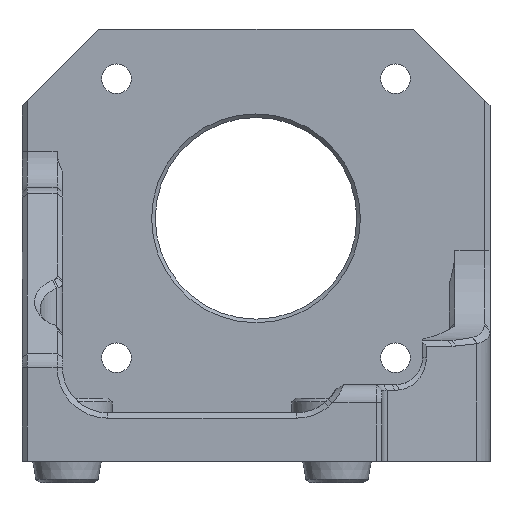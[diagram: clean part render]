
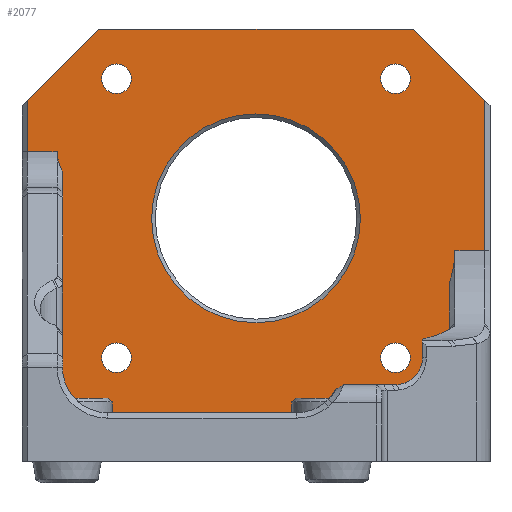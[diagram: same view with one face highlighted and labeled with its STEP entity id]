
A CAD part, front view. The second image highlights one B-rep face of the part: STEP entity #2077.
In plain terms, the highlighted planar face has unit normal (0, -1, 0).
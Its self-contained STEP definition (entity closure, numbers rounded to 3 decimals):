
#122=FACE_BOUND('',#346,.T.);
#123=FACE_BOUND('',#347,.T.);
#124=FACE_BOUND('',#348,.T.);
#125=FACE_BOUND('',#349,.T.);
#126=FACE_BOUND('',#350,.T.);
#140=(
BOUNDED_CURVE()
B_SPLINE_CURVE(2,(#2953,#2954,#2955),.UNSPECIFIED.,.F.,.F.)
B_SPLINE_CURVE_WITH_KNOTS((3,3),(0.237,0.473),
 .UNSPECIFIED.)
CURVE()
GEOMETRIC_REPRESENTATION_ITEM()
RATIONAL_B_SPLINE_CURVE((1.,1.037,1.))
REPRESENTATION_ITEM('')
);
#141=(
BOUNDED_CURVE()
B_SPLINE_CURVE(2,(#2967,#2968,#2969),.UNSPECIFIED.,.F.,.F.)
B_SPLINE_CURVE_WITH_KNOTS((3,3),(0.,0.358),.UNSPECIFIED.)
CURVE()
GEOMETRIC_REPRESENTATION_ITEM()
RATIONAL_B_SPLINE_CURVE((1.,1.015,1.))
REPRESENTATION_ITEM('')
);
#142=PLANE('',#2222);
#219=FACE_OUTER_BOUND('',#345,.T.);
#345=EDGE_LOOP('',(#1424,#1425,#1426,#1427,#1428,#1429,#1430,#1431,#1432,
#1433,#1434,#1435,#1436,#1437));
#346=EDGE_LOOP('',(#1438));
#347=EDGE_LOOP('',(#1439));
#348=EDGE_LOOP('',(#1440));
#349=EDGE_LOOP('',(#1441));
#350=EDGE_LOOP('',(#1442));
#489=LINE('',#2949,#659);
#490=LINE('',#2951,#660);
#491=LINE('',#2957,#661);
#492=LINE('',#2961,#662);
#493=LINE('',#2965,#663);
#494=LINE('',#2971,#664);
#495=LINE('',#2973,#665);
#496=LINE('',#2975,#666);
#497=LINE('',#2977,#667);
#498=LINE('',#2978,#668);
#659=VECTOR('',#2417,10.);
#660=VECTOR('',#2418,10.);
#661=VECTOR('',#2419,10.);
#662=VECTOR('',#2422,10.);
#663=VECTOR('',#2425,10.);
#664=VECTOR('',#2426,10.);
#665=VECTOR('',#2427,10.);
#666=VECTOR('',#2428,10.);
#667=VECTOR('',#2429,10.);
#668=VECTOR('',#2430,10.);
#827=CIRCLE('',#2218,11.6);
#830=CIRCLE('',#2223,5.);
#831=CIRCLE('',#2224,5.);
#832=CIRCLE('',#2225,1.65);
#833=CIRCLE('',#2226,1.65);
#834=CIRCLE('',#2227,1.65);
#835=CIRCLE('',#2228,1.65);
#902=VERTEX_POINT('',#2937);
#905=VERTEX_POINT('',#2947);
#906=VERTEX_POINT('',#2948);
#907=VERTEX_POINT('',#2950);
#908=VERTEX_POINT('',#2952);
#909=VERTEX_POINT('',#2956);
#910=VERTEX_POINT('',#2958);
#911=VERTEX_POINT('',#2960);
#912=VERTEX_POINT('',#2962);
#913=VERTEX_POINT('',#2964);
#914=VERTEX_POINT('',#2966);
#915=VERTEX_POINT('',#2970);
#916=VERTEX_POINT('',#2972);
#917=VERTEX_POINT('',#2974);
#918=VERTEX_POINT('',#2976);
#919=VERTEX_POINT('',#2979);
#920=VERTEX_POINT('',#2981);
#921=VERTEX_POINT('',#2983);
#922=VERTEX_POINT('',#2985);
#1098=EDGE_CURVE('',#902,#902,#827,.T.);
#1103=EDGE_CURVE('',#905,#906,#489,.T.);
#1104=EDGE_CURVE('',#907,#905,#490,.T.);
#1105=EDGE_CURVE('',#908,#907,#140,.F.);
#1106=EDGE_CURVE('',#908,#909,#491,.T.);
#1107=EDGE_CURVE('',#909,#910,#830,.T.);
#1108=EDGE_CURVE('',#910,#911,#492,.T.);
#1109=EDGE_CURVE('',#911,#912,#831,.T.);
#1110=EDGE_CURVE('',#912,#913,#493,.T.);
#1111=EDGE_CURVE('',#914,#913,#141,.F.);
#1112=EDGE_CURVE('',#915,#914,#494,.T.);
#1113=EDGE_CURVE('',#916,#915,#495,.T.);
#1114=EDGE_CURVE('',#917,#916,#496,.T.);
#1115=EDGE_CURVE('',#918,#917,#497,.T.);
#1116=EDGE_CURVE('',#906,#918,#498,.T.);
#1117=EDGE_CURVE('',#919,#919,#832,.T.);
#1118=EDGE_CURVE('',#920,#920,#833,.T.);
#1119=EDGE_CURVE('',#921,#921,#834,.T.);
#1120=EDGE_CURVE('',#922,#922,#835,.T.);
#1424=ORIENTED_EDGE('',*,*,#1103,.F.);
#1425=ORIENTED_EDGE('',*,*,#1104,.F.);
#1426=ORIENTED_EDGE('',*,*,#1105,.F.);
#1427=ORIENTED_EDGE('',*,*,#1106,.T.);
#1428=ORIENTED_EDGE('',*,*,#1107,.T.);
#1429=ORIENTED_EDGE('',*,*,#1108,.T.);
#1430=ORIENTED_EDGE('',*,*,#1109,.T.);
#1431=ORIENTED_EDGE('',*,*,#1110,.T.);
#1432=ORIENTED_EDGE('',*,*,#1111,.F.);
#1433=ORIENTED_EDGE('',*,*,#1112,.F.);
#1434=ORIENTED_EDGE('',*,*,#1113,.F.);
#1435=ORIENTED_EDGE('',*,*,#1114,.F.);
#1436=ORIENTED_EDGE('',*,*,#1115,.F.);
#1437=ORIENTED_EDGE('',*,*,#1116,.F.);
#1438=ORIENTED_EDGE('',*,*,#1117,.T.);
#1439=ORIENTED_EDGE('',*,*,#1118,.T.);
#1440=ORIENTED_EDGE('',*,*,#1119,.T.);
#1441=ORIENTED_EDGE('',*,*,#1120,.T.);
#1442=ORIENTED_EDGE('',*,*,#1098,.F.);
#2077=ADVANCED_FACE('',(#219,#122,#123,#124,#125,#126),#142,.T.);
#2218=AXIS2_PLACEMENT_3D('',#2938,#2405,#2406);
#2222=AXIS2_PLACEMENT_3D('',#2946,#2415,#2416);
#2223=AXIS2_PLACEMENT_3D('',#2959,#2420,#2421);
#2224=AXIS2_PLACEMENT_3D('',#2963,#2423,#2424);
#2225=AXIS2_PLACEMENT_3D('',#2980,#2431,#2432);
#2226=AXIS2_PLACEMENT_3D('',#2982,#2433,#2434);
#2227=AXIS2_PLACEMENT_3D('',#2984,#2435,#2436);
#2228=AXIS2_PLACEMENT_3D('',#2986,#2437,#2438);
#2405=DIRECTION('center_axis',(0.,-1.,0.));
#2406=DIRECTION('ref_axis',(1.,0.,0.));
#2415=DIRECTION('center_axis',(0.,-1.,0.));
#2416=DIRECTION('ref_axis',(1.,0.,0.));
#2417=DIRECTION('',(0.,0.,1.));
#2418=DIRECTION('',(-1.,0.,0.));
#2419=DIRECTION('',(0.,0.,-1.));
#2420=DIRECTION('center_axis',(0.,-1.,0.));
#2421=DIRECTION('ref_axis',(-0.707,0.,-0.707));
#2422=DIRECTION('',(1.,0.,0.));
#2423=DIRECTION('center_axis',(0.,-1.,0.));
#2424=DIRECTION('ref_axis',(0.707,0.,-0.707));
#2425=DIRECTION('',(0.,0.,1.));
#2426=DIRECTION('',(-1.,0.,0.));
#2427=DIRECTION('',(0.,0.,-1.));
#2428=DIRECTION('',(0.707,0.,-0.707));
#2429=DIRECTION('',(1.,0.,0.));
#2430=DIRECTION('',(0.707,0.,0.707));
#2431=DIRECTION('center_axis',(0.,1.,0.));
#2432=DIRECTION('ref_axis',(1.,0.,0.));
#2433=DIRECTION('center_axis',(0.,1.,0.));
#2434=DIRECTION('ref_axis',(1.,0.,0.));
#2435=DIRECTION('center_axis',(0.,1.,0.));
#2436=DIRECTION('ref_axis',(1.,0.,0.));
#2437=DIRECTION('center_axis',(0.,1.,0.));
#2438=DIRECTION('ref_axis',(1.,0.,0.));
#2937=CARTESIAN_POINT('',(-25.6,-10.3,69.875));
#2938=CARTESIAN_POINT('Origin',(-14.,-10.3,69.875));
#2946=CARTESIAN_POINT('Origin',(-40.,-10.3,42.875));
#2947=CARTESIAN_POINT('',(-39.4,-10.3,77.275));
#2948=CARTESIAN_POINT('',(-39.4,-10.3,82.975));
#2949=CARTESIAN_POINT('',(-39.4,-10.3,42.875));
#2950=CARTESIAN_POINT('',(-36.1,-10.3,77.275));
#2951=CARTESIAN_POINT('',(-40.,-10.3,77.275));
#2952=CARTESIAN_POINT('',(-35.5,-10.3,75.004));
#2953=CARTESIAN_POINT('Ctrl Pts',(-36.1,-10.3,77.275));
#2954=CARTESIAN_POINT('Ctrl Pts',(-36.1,-10.3,76.219));
#2955=CARTESIAN_POINT('Ctrl Pts',(-35.5,-10.3,75.004));
#2956=CARTESIAN_POINT('',(-35.5,-10.3,53.275));
#2957=CARTESIAN_POINT('',(-35.5,-10.3,51.825));
#2958=CARTESIAN_POINT('',(-30.5,-10.3,48.275));
#2959=CARTESIAN_POINT('Origin',(-30.5,-10.3,53.275));
#2960=CARTESIAN_POINT('',(2.5,-10.3,48.275));
#2961=CARTESIAN_POINT('',(-28.25,-10.3,48.275));
#2962=CARTESIAN_POINT('',(7.5,-10.3,53.275));
#2963=CARTESIAN_POINT('Origin',(2.5,-10.3,53.275));
#2964=CARTESIAN_POINT('',(7.5,-10.3,62.76));
#2965=CARTESIAN_POINT('',(7.5,-10.3,49.575));
#2966=CARTESIAN_POINT('',(8.1,-10.3,66.275));
#2967=CARTESIAN_POINT('Ctrl Pts',(7.5,-10.3,62.76));
#2968=CARTESIAN_POINT('Ctrl Pts',(8.1,-10.3,64.569));
#2969=CARTESIAN_POINT('Ctrl Pts',(8.1,-10.3,66.275));
#2970=CARTESIAN_POINT('',(11.4,-10.3,66.275));
#2971=CARTESIAN_POINT('',(-14.,-10.3,66.275));
#2972=CARTESIAN_POINT('',(11.4,-10.3,82.975));
#2973=CARTESIAN_POINT('',(11.4,-10.3,42.875));
#2974=CARTESIAN_POINT('',(3.5,-10.3,90.875));
#2975=CARTESIAN_POINT('',(6.75,-10.3,87.625));
#2976=CARTESIAN_POINT('',(-31.5,-10.3,90.875));
#2977=CARTESIAN_POINT('',(7.,-10.3,90.875));
#2978=CARTESIAN_POINT('',(-47.75,-10.3,74.625));
#2979=CARTESIAN_POINT('',(-0.15,-10.3,85.375));
#2980=CARTESIAN_POINT('Origin',(1.5,-10.3,85.375));
#2981=CARTESIAN_POINT('',(-31.15,-10.3,54.375));
#2982=CARTESIAN_POINT('Origin',(-29.5,-10.3,54.375));
#2983=CARTESIAN_POINT('',(-0.15,-10.3,54.375));
#2984=CARTESIAN_POINT('Origin',(1.5,-10.3,54.375));
#2985=CARTESIAN_POINT('',(-31.15,-10.3,85.375));
#2986=CARTESIAN_POINT('Origin',(-29.5,-10.3,85.375));
